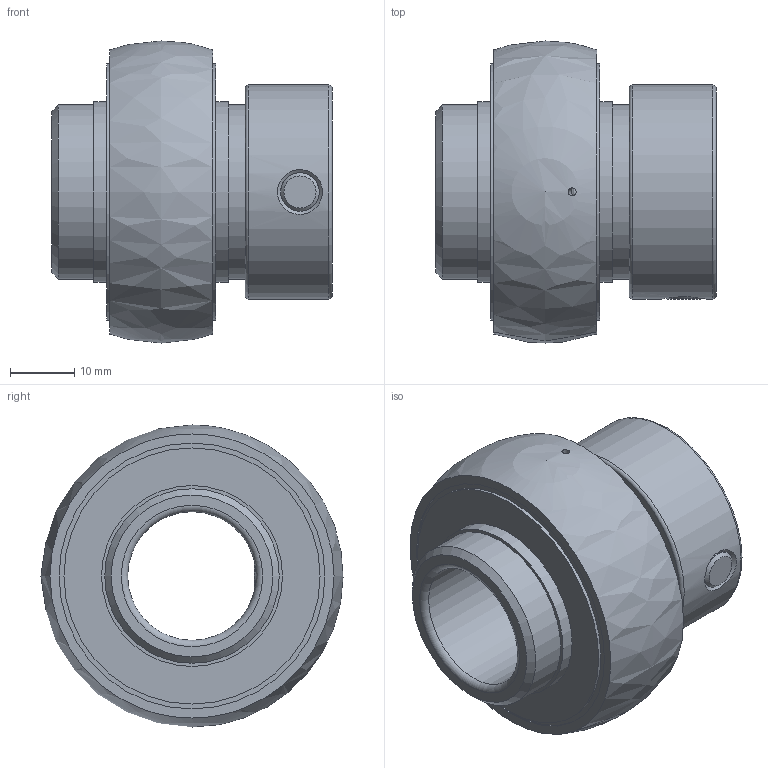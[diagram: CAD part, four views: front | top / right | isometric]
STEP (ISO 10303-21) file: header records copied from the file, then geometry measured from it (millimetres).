
FILE_DESCRIPTION(/* description */ (''),/* implementation_level */ '2;1');
FILE_NAME(/* name */ 'D:\moje\parametrické\ua2--\UA2--_\UA204.stp',/* time_stamp */ '2016-08-24T12:39:48+02:00',/* author */ ('OUBALASKO'),/* organization */ (''),/* preprocessor_version */ 'ST-DEVELOPER v15.6',/* originating_system */ 'Autodesk Inventor 2015',/* authorisation */ '');
FILE_SCHEMA (('AUTOMOTIVE_DESIGN { 1 0 10303 214 3 1 1 }'));
Length unit declared in the file: millimetre
Products named in the file (9): UA204-02; UA204-ring; UA204-01; UA204-seal; UA204-shield; UA204-ball; M6x7; UA204-cage; UA204
Assembly tree (18 placements, depth 2):
  UA204
    UA204-02
    UA204-ring
    UA204-01
    UA204-seal  x2
    UA204-shield  x2
    UA204-ball  x8
    M6x7
    UA204-cage  x2
Bounding box: 43.6 x 47 x 47 mm (x, y, z)
Volume: 26592.7 mm3; surface area: 25102.3 mm2
Topology: 18 solids, 18 shells, 135 faces, 423 edges, 277 vertices
Faces by surface type: plane 54, sphere 41, cylinder 27, torus 6, cone 6, bspline 1
Full cylindrical faces by diameter (mm): 1.2 x2, 6 x2, 20 x2, 27.15 x6, 28.15 x2, 30.325 x2, 33.3 x1, 36.675 x2, 39.85 x4, 41.35 x4
Entity records: 3346 total; most frequent: CARTESIAN_POINT 1331, DIRECTION 439, ORIENTED_EDGE 298, AXIS2_PLACEMENT_3D 219, EDGE_CURVE 149, EDGE_LOOP 138, VERTEX_POINT 117, CIRCLE 109
